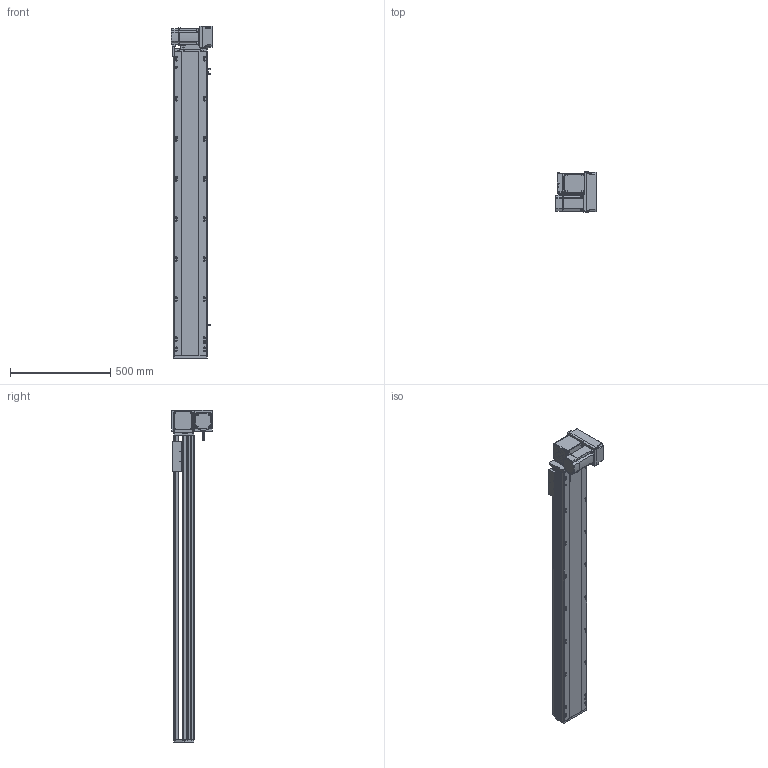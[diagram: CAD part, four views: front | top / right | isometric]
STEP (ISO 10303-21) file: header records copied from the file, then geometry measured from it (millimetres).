
FILE_DESCRIPTION (( 'STEP AP214' ), '1' );
FILE_NAME ('RTB17S-XX-1250-RM-M75-C4.STEP', '2025-12-12T02:07:28', ( '' ), ( '' ), 'SwSTEP 2.0', 'SolidWorks 2018', '' );
FILE_SCHEMA (( 'AUTOMOTIVE_DESIGN' ));
Length unit declared in the file: millimetre
Products named in the file (15): RTB22S-GY-018P^RTB17S-RM-々湍釱蚾饜-750W_RTB17S-XX-XX-RM-M75-C4; EE672^RTB17S-XX-XX-RM-M75-C4; RTB17S-L-004-賑釱^RTB17S-賑釱_RTB17S-XX-XX-RM-M75-C4; RTB17S-XX-1250-RM-M75-C4; 750W萇儂^RTB17S-XX-XX-RM-M75-C4; RTB17S-L-007奻裔^RTB17S-XX-XX-RM-M75-C4; RTB22S-GY-017P^RTB17S-RM-々湍釱蚾饜-750W_RTB17S-XX-XX-RM-M75-C4; RTB17S-RM-々湍釱蚾饜-750W^RTB17S-XX-XX-RM-M75-C4; RTB22S-GY-005P^RTB17S-RM-々湍釱蚾饜-750W_RTB17S-XX-XX-RM-M75-C4; RTB17S-L-014-T20-P75--々湍釱^RTB17S-RM-々湍釱蚾饜-750W_RTB17S-XX-XX-RM-M75-C4; RTB17S-賑釱^RTB17S-XX-XX-RM-M75-C4; RTB22S-GY-008-M75--萇儂啣^RTB17S-RM-々湍釱蚾饜-750W_RTB17S-XX-XX-RM-M75-C4; RTB17-R-011菁釱^RTB17S-XX-XX-RM-M75-C4; RTB17S-L-001-耜醱啣^RTB17S-XX-XX-RM-M75-C4; RTH13-BL-012覜茼え俋离^RTB17S-賑釱_RTB17S-XX-XX-RM-M75-C4
Assembly tree (17 placements, depth 3):
  RTB17S-XX-1250-RM-M75-C4
    RTB17-R-011菁釱^RTB17S-XX-XX-RM-M75-C4
    EE672^RTB17S-XX-XX-RM-M75-C4  x3
    RTB17S-L-001-耜醱啣^RTB17S-XX-XX-RM-M75-C4
    RTB17S-賑釱^RTB17S-XX-XX-RM-M75-C4
      RTB17S-L-004-賑釱^RTB17S-賑釱_RTB17S-XX-XX-RM-M75-C4
      RTH13-BL-012覜茼え俋离^RTB17S-賑釱_RTB17S-XX-XX-RM-M75-C4
    RTB17S-L-007奻裔^RTB17S-XX-XX-RM-M75-C4
    750W萇儂^RTB17S-XX-XX-RM-M75-C4
    RTB17S-RM-々湍釱蚾饜-750W^RTB17S-XX-XX-RM-M75-C4
      RTB17S-L-014-T20-P75--々湍釱^RTB17S-RM-々湍釱蚾饜-750W_RTB17S-XX-XX-RM-M75-C4
      RTB22S-GY-005P^RTB17S-RM-々湍釱蚾饜-750W_RTB17S-XX-XX-RM-M75-C4
      RTB22S-GY-017P^RTB17S-RM-々湍釱蚾饜-750W_RTB17S-XX-XX-RM-M75-C4  x2
      RTB22S-GY-008-M75--萇儂啣^RTB17S-RM-々湍釱蚾饜-750W_RTB17S-XX-XX-RM-M75-C4
      RTB22S-GY-018P^RTB17S-RM-々湍釱蚾饜-750W_RTB17S-XX-XX-RM-M75-C4
Bounding box: 207.4 x 200 x 1657.5 mm (x, y, z)
Volume: 13758686.6 mm3; surface area: 2379800 mm2
Topology: 17 solids, 17 shells, 2121 faces, 5890 edges, 3806 vertices
Faces by surface type: plane 974, cylinder 731, bspline 294, cone 110, sphere 8, torus 4
Entity records: 59638 total; most frequent: CARTESIAN_POINT 17554, ORIENTED_EDGE 8624, DIRECTION 8042, EDGE_CURVE 4312, AXIS2_PLACEMENT_3D 2826, VERTEX_POINT 2810, VECTOR 2390, LINE 2390
